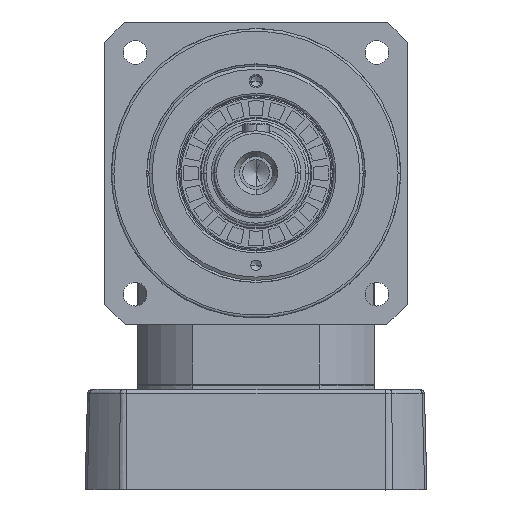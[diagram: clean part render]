
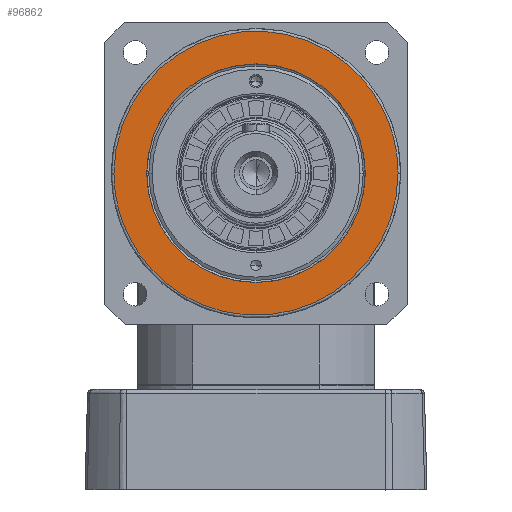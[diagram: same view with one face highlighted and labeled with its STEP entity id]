
A CAD part, top view. The second image highlights one B-rep face of the part: STEP entity #96862.
In plain terms, the highlighted planar face has unit normal (0, 0, 1).
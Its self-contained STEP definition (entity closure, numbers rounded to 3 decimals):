
#111 =( BOUNDED_CURVE ( )  B_SPLINE_CURVE ( 3, ( #101779, #9774, #42710, #41957 ),
 .UNSPECIFIED., .F., .F. ) 
 B_SPLINE_CURVE_WITH_KNOTS ( ( 4, 4 ),
 ( 0., 1. ),
 .UNSPECIFIED. ) 
 CURVE ( )  GEOMETRIC_REPRESENTATION_ITEM ( )  RATIONAL_B_SPLINE_CURVE ( ( 0.957, 0.319, 0.319, 0.957 ) ) 
 REPRESENTATION_ITEM ( '' )  );
#2330 = AXIS2_PLACEMENT_3D ( 'NONE', #35106, #14123, #24600 ) ;
#8694 = CARTESIAN_POINT ( 'NONE',  ( 107.512, 32.387, -46.32 ) ) ;
#9208 = PLANE ( 'NONE',  #72888 ) ;
#9626 = EDGE_CURVE ( 'NONE', #86532, #62555, #48155, .T. ) ;
#9774 = CARTESIAN_POINT ( 'NONE',  ( 107.512, -75.613, -46.32 ) ) ;
#13399 = ORIENTED_EDGE ( 'NONE', *, *, #103184, .F. ) ;
#14123 = DIRECTION ( 'NONE',  ( 0., 0., -1. ) ) ;
#19682 = EDGE_LOOP ( 'NONE', ( #43987, #13399 ) ) ;
#21356 = CARTESIAN_POINT ( 'NONE',  ( 107.512, 140.387, -46.32 ) ) ;
#24600 = DIRECTION ( 'NONE',  ( 1., 0., 0. ) ) ;
#30214 = EDGE_CURVE ( 'NONE', #65702, #107670, #111, .T. ) ;
#32572 = CARTESIAN_POINT ( 'NONE',  ( -0.488, 32.387, -46.32 ) ) ;
#34576 = FACE_BOUND ( 'NONE', #139459, .T. ) ;
#35106 = CARTESIAN_POINT ( 'NONE',  ( 53.512, 32.387, -46.32 ) ) ;
#39602 = CARTESIAN_POINT ( 'NONE',  ( 53.512, 32.387, -46.32 ) ) ;
#41957 = CARTESIAN_POINT ( 'NONE',  ( -0.488, 32.387, -46.32 ) ) ;
#42710 = CARTESIAN_POINT ( 'NONE',  ( -0.488, -75.613, -46.32 ) ) ;
#43987 = ORIENTED_EDGE ( 'NONE', *, *, #30214, .F. ) ;
#48155 = CIRCLE ( 'NONE', #64937, 41.55 ) ;
#55789 = CARTESIAN_POINT ( 'NONE',  ( 107.512, 32.387, -46.32 ) ) ;
#62555 = VERTEX_POINT ( 'NONE', #123095 ) ;
#64409 = CIRCLE ( 'NONE', #2330, 41.55 ) ;
#64937 = AXIS2_PLACEMENT_3D ( 'NONE', #39602, #106952, #141354 ) ;
#65702 = VERTEX_POINT ( 'NONE', #8694 ) ;
#71637 = EDGE_CURVE ( 'NONE', #62555, #86532, #64409, .T. ) ;
#72888 = AXIS2_PLACEMENT_3D ( 'NONE', #125832, #114621, #100483 ) ;
#80226 = FACE_OUTER_BOUND ( 'NONE', #19682, .T. ) ;
#86532 = VERTEX_POINT ( 'NONE', #128998 ) ;
#89511 = CARTESIAN_POINT ( 'NONE',  ( -0.488, 32.387, -46.32 ) ) ;
#90182 = CARTESIAN_POINT ( 'NONE',  ( -0.488, 140.387, -46.32 ) ) ;
#92019 = ORIENTED_EDGE ( 'NONE', *, *, #9626, .T. ) ;
#96862 = ADVANCED_FACE ( 'NONE', ( #34576, #80226 ), #9208, .T. ) ;
#100483 = DIRECTION ( 'NONE',  ( 1., 0., 0. ) ) ;
#101779 = CARTESIAN_POINT ( 'NONE',  ( 107.512, 32.387, -46.32 ) ) ;
#103184 = EDGE_CURVE ( 'NONE', #107670, #65702, #111416, .T. ) ;
#106952 = DIRECTION ( 'NONE',  ( 0., 0., -1. ) ) ;
#107670 = VERTEX_POINT ( 'NONE', #89511 ) ;
#111416 =( BOUNDED_CURVE ( )  B_SPLINE_CURVE ( 3, ( #32572, #90182, #21356, #55789 ),
 .UNSPECIFIED., .F., .T. ) 
 B_SPLINE_CURVE_WITH_KNOTS ( ( 4, 4 ),
 ( 0., 1. ),
 .UNSPECIFIED. ) 
 CURVE ( )  GEOMETRIC_REPRESENTATION_ITEM ( )  RATIONAL_B_SPLINE_CURVE ( ( 0.957, 0.319, 0.319, 0.957 ) ) 
 REPRESENTATION_ITEM ( '' )  );
#111581 = ORIENTED_EDGE ( 'NONE', *, *, #71637, .T. ) ;
#114621 = DIRECTION ( 'NONE',  ( 0., 0., 1. ) ) ;
#123095 = CARTESIAN_POINT ( 'NONE',  ( 11.962, 32.387, -46.32 ) ) ;
#125832 = CARTESIAN_POINT ( 'NONE',  ( -1.136, -22.261, -46.32 ) ) ;
#128998 = CARTESIAN_POINT ( 'NONE',  ( 95.062, 32.387, -46.32 ) ) ;
#139459 = EDGE_LOOP ( 'NONE', ( #92019, #111581 ) ) ;
#141354 = DIRECTION ( 'NONE',  ( 1., 0., 0. ) ) ;
